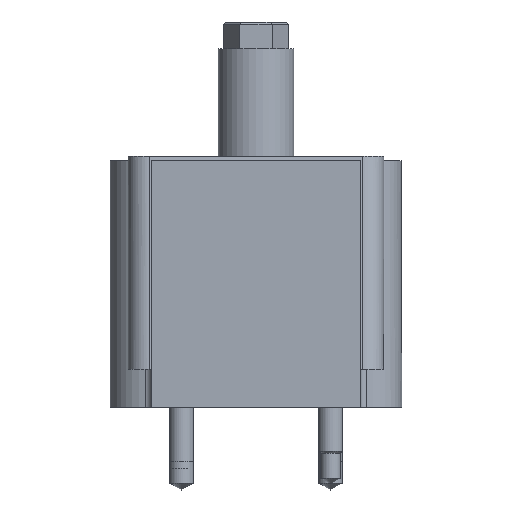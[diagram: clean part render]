
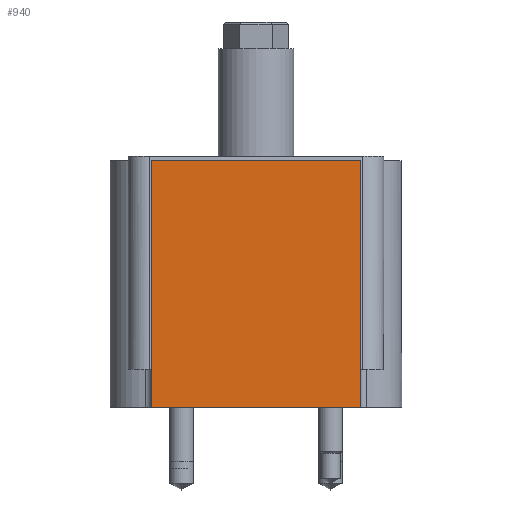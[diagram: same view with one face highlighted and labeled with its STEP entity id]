
A CAD part, left-side view. The second image highlights one B-rep face of the part: STEP entity #940.
In plain terms, the highlighted planar face has unit normal (-1, 0, 0).
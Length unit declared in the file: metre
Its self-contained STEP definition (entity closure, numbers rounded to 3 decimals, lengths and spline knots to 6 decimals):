
#940=ADVANCED_FACE('',(#1987),#1988,.T.);
#1987=FACE_OUTER_BOUND('',#3760,.T.);
#1988=PLANE('',#3761);
#3760=EDGE_LOOP('',(#13894,#13895,#13896,#13897));
#3761=AXIS2_PLACEMENT_3D('',#13898,#13899,#13900);
#13894=ORIENTED_EDGE('',*,*,#15764,.F.);
#13895=ORIENTED_EDGE('',*,*,#15765,.T.);
#13896=ORIENTED_EDGE('',*,*,#15755,.F.);
#13897=ORIENTED_EDGE('',*,*,#15738,.T.);
#13898=CARTESIAN_POINT('',(-0.084201,0.0,0.0));
#13899=DIRECTION('',(-1.0,0.0,0.0));
#13900=DIRECTION('',(0.0,0.0,1.0));
#15738=EDGE_CURVE('',#16619,#16617,#16620,.T.);
#15755=EDGE_CURVE('',#16619,#16645,#16646,.F.);
#15764=EDGE_CURVE('',#16655,#16617,#16656,.F.);
#15765=EDGE_CURVE('',#16655,#16645,#16657,.T.);
#16617=VERTEX_POINT('',#17838);
#16619=VERTEX_POINT('',#17841);
#16620=LINE('',#17842,#17843);
#16645=VERTEX_POINT('',#17875);
#16646=LINE('',#17876,#17877);
#16655=VERTEX_POINT('',#17888);
#16656=LINE('',#17889,#17890);
#16657=LINE('',#17891,#17892);
#17838=CARTESIAN_POINT('',(-0.084201,0.034988,0.08255));
#17841=CARTESIAN_POINT('',(-0.084201,-0.034988,0.08255));
#17842=CARTESIAN_POINT('',(-0.084201,0.0,0.08255));
#17843=VECTOR('',#21392,1.0);
#17875=CARTESIAN_POINT('',(-0.084201,-0.034988,0.0));
#17876=CARTESIAN_POINT('',(-0.084201,-0.034988,0.0));
#17877=VECTOR('',#21415,1.0);
#17888=CARTESIAN_POINT('',(-0.084201,0.034988,0.0));
#17889=CARTESIAN_POINT('',(-0.084201,0.034988,0.0));
#17890=VECTOR('',#21424,1.0);
#17891=CARTESIAN_POINT('',(-0.084201,0.0,0.0));
#17892=VECTOR('',#21425,1.0);
#21392=DIRECTION('',(0.0,1.0,0.0));
#21415=DIRECTION('',(0.0,0.0,1.0));
#21424=DIRECTION('',(0.0,0.0,-1.0));
#21425=DIRECTION('',(-0.0,-1.0,-0.0));
